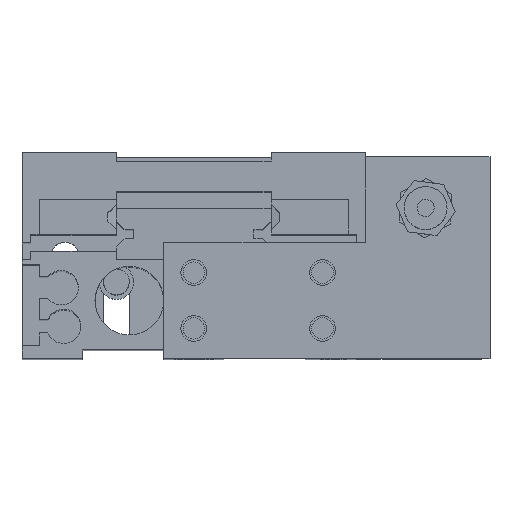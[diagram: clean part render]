
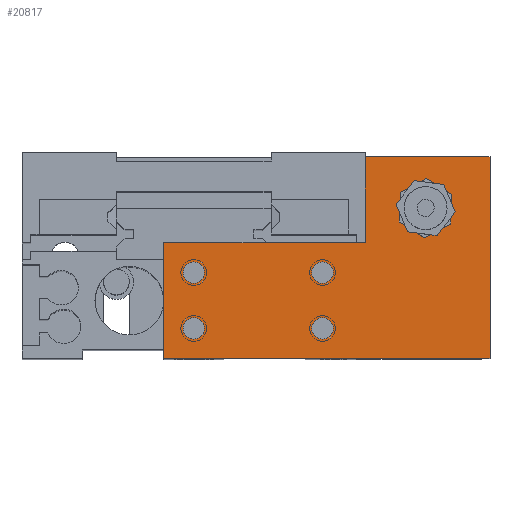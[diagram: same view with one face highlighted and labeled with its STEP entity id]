
A CAD part, top view. The second image highlights one B-rep face of the part: STEP entity #20817.
In plain terms, the highlighted planar face has unit normal (0, 0, 1).
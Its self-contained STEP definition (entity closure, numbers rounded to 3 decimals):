
#8771 = CARTESIAN_POINT ( 'NONE',  ( 4.75, 10., 6. ) ) ;
#8881 = CARTESIAN_POINT ( 'NONE',  ( 2.25, 10., 6. ) ) ;
#8891 = CIRCLE ( 'NONE', #8929, 1.25 ) ;
#8926 = DIRECTION ( 'NONE',  ( 1., 0., 0. ) ) ;
#8927 = DIRECTION ( 'NONE',  ( 0., 0., 1. ) ) ;
#8928 = CARTESIAN_POINT ( 'NONE',  ( 18.5, 3.5, 6. ) ) ;
#8929 = AXIS2_PLACEMENT_3D ( 'NONE', #8928, #8927, #8926 ) ;
#8938 = CARTESIAN_POINT ( 'NONE',  ( 28., 17.5, 6. ) ) ;
#8971 = CARTESIAN_POINT ( 'NONE',  ( 4.75, 3.5, 6. ) ) ;
#8980 = CIRCLE ( 'NONE', #9063, 1.25 ) ;
#8983 = DIRECTION ( 'NONE',  ( 1., 0., 0. ) ) ;
#8984 = DIRECTION ( 'NONE',  ( 0., 0., 1. ) ) ;
#8985 = CARTESIAN_POINT ( 'NONE',  ( 3.5, 3.5, 6. ) ) ;
#8986 = AXIS2_PLACEMENT_3D ( 'NONE', #8985, #8984, #8983 ) ;
#8996 = CARTESIAN_POINT ( 'NONE',  ( 19.75, 3.5, 6. ) ) ;
#9003 = CIRCLE ( 'NONE', #8986, 1.25 ) ;
#9011 = CARTESIAN_POINT ( 'NONE',  ( 33., 17.5, 6. ) ) ;
#9031 = CARTESIAN_POINT ( 'NONE',  ( 17.25, 3.5, 6. ) ) ;
#9038 = CARTESIAN_POINT ( 'NONE',  ( 0., 0., 6. ) ) ;
#9039 = CIRCLE ( 'NONE', #9099, 2.5 ) ;
#9058 = DIRECTION ( 'NONE',  ( 1., 0., 0. ) ) ;
#9059 = DIRECTION ( 'NONE',  ( 0., 0., 1. ) ) ;
#9063 = AXIS2_PLACEMENT_3D ( 'NONE', #9069, #9059, #9058 ) ;
#9069 = CARTESIAN_POINT ( 'NONE',  ( 18.5, 10., 6. ) ) ;
#9096 = DIRECTION ( 'NONE',  ( 1., 0., 0. ) ) ;
#9097 = DIRECTION ( 'NONE',  ( 0., 0., 1. ) ) ;
#9098 = CARTESIAN_POINT ( 'NONE',  ( 30.5, 17.5, 6. ) ) ;
#9099 = AXIS2_PLACEMENT_3D ( 'NONE', #9098, #9097, #9096 ) ;
#9118 = DIRECTION ( 'NONE',  ( 0., -1., 0. ) ) ;
#9119 = VECTOR ( 'NONE', #9118, 1000. ) ;
#9120 = CARTESIAN_POINT ( 'NONE',  ( 0., 0., 6. ) ) ;
#9126 = LINE ( 'NONE', #9120, #9119 ) ;
#9152 = DIRECTION ( 'NONE',  ( 0., 1., 0. ) ) ;
#9153 = VECTOR ( 'NONE', #9152, 1000. ) ;
#9154 = CARTESIAN_POINT ( 'NONE',  ( 38., 0., 6. ) ) ;
#9155 = LINE ( 'NONE', #9154, #9153 ) ;
#9165 = CARTESIAN_POINT ( 'NONE',  ( 38., 0., 6. ) ) ;
#9172 = CARTESIAN_POINT ( 'NONE',  ( 23.5, 23.5, 6. ) ) ;
#9187 = CARTESIAN_POINT ( 'NONE',  ( 0., 13.5, 6. ) ) ;
#9225 = CARTESIAN_POINT ( 'NONE',  ( 23.5, 13.5, 6. ) ) ;
#9238 = DIRECTION ( 'NONE',  ( 0., 0., 1. ) ) ;
#9250 = CARTESIAN_POINT ( 'NONE',  ( 38., 23.5, 6. ) ) ;
#9256 = DIRECTION ( 'NONE',  ( -1., 0., 0. ) ) ;
#9257 = VECTOR ( 'NONE', #9256, 1000. ) ;
#9258 = CARTESIAN_POINT ( 'NONE',  ( 38., 23.5, 6. ) ) ;
#9259 = LINE ( 'NONE', #9258, #9257 ) ;
#9269 = DIRECTION ( 'NONE',  ( -1., 0., 0. ) ) ;
#9270 = VECTOR ( 'NONE', #9269, 1000. ) ;
#9271 = CARTESIAN_POINT ( 'NONE',  ( 0., 13.5, 6. ) ) ;
#9272 = LINE ( 'NONE', #9271, #9270 ) ;
#9297 = PLANE ( 'NONE',  #9360 ) ;
#9303 = DIRECTION ( 'NONE',  ( 1., 0., 0. ) ) ;
#9304 = AXIS2_PLACEMENT_3D ( 'NONE', #9305, #9238, #9303 ) ;
#9305 = CARTESIAN_POINT ( 'NONE',  ( 18.5, 10., 6. ) ) ;
#9306 = FACE_OUTER_BOUND ( 'NONE', #21062, .T. ) ;
#9309 = CIRCLE ( 'NONE', #9304, 1.25 ) ;
#9310 = CARTESIAN_POINT ( 'NONE',  ( 0., 13.5, 6. ) ) ;
#9311 = CARTESIAN_POINT ( 'NONE',  ( 23.5, 23.5, 6. ) ) ;
#9312 = LINE ( 'NONE', #9311, #9353 ) ;
#9328 = CIRCLE ( 'NONE', #9332, 1.25 ) ;
#9329 = DIRECTION ( 'NONE',  ( -1., 0., 0. ) ) ;
#9330 = DIRECTION ( 'NONE',  ( 0., 0., -1. ) ) ;
#9332 = AXIS2_PLACEMENT_3D ( 'NONE', #9333, #9377, #9376 ) ;
#9333 = CARTESIAN_POINT ( 'NONE',  ( 3.5, 3.5, 6. ) ) ;
#9335 = FACE_BOUND ( 'NONE', #20024, .T. ) ;
#9339 = FACE_BOUND ( 'NONE', #19853, .T. ) ;
#9340 = FACE_BOUND ( 'NONE', #20636, .T. ) ;
#9341 = DIRECTION ( 'NONE',  ( 1., 0., 0. ) ) ;
#9342 = DIRECTION ( 'NONE',  ( 0., 0., 1. ) ) ;
#9343 = AXIS2_PLACEMENT_3D ( 'NONE', #9350, #9342, #9341 ) ;
#9344 = FACE_BOUND ( 'NONE', #20848, .T. ) ;
#9345 = FACE_BOUND ( 'NONE', #20580, .T. ) ;
#9350 = CARTESIAN_POINT ( 'NONE',  ( 3.5, 10., 6. ) ) ;
#9352 = DIRECTION ( 'NONE',  ( 0., -1., 0. ) ) ;
#9353 = VECTOR ( 'NONE', #9352, 1000. ) ;
#9359 = CIRCLE ( 'NONE', #9343, 1.25 ) ;
#9360 = AXIS2_PLACEMENT_3D ( 'NONE', #9310, #9330, #9329 ) ;
#9361 = DIRECTION ( 'NONE',  ( 1., 0., 0. ) ) ;
#9362 = DIRECTION ( 'NONE',  ( 0., 0., 1. ) ) ;
#9363 = CARTESIAN_POINT ( 'NONE',  ( 30.5, 17.5, 6. ) ) ;
#9364 = AXIS2_PLACEMENT_3D ( 'NONE', #9363, #9422, #9421 ) ;
#9371 = CIRCLE ( 'NONE', #9364, 2.5 ) ;
#9374 = CIRCLE ( 'NONE', #9383, 1.25 ) ;
#9375 = CARTESIAN_POINT ( 'NONE',  ( 18.5, 3.5, 6. ) ) ;
#9376 = DIRECTION ( 'NONE',  ( 1., 0., 0. ) ) ;
#9377 = DIRECTION ( 'NONE',  ( 0., 0., 1. ) ) ;
#9383 = AXIS2_PLACEMENT_3D ( 'NONE', #9375, #9362, #9361 ) ;
#9421 = DIRECTION ( 'NONE',  ( 1., 0., 0. ) ) ;
#9422 = DIRECTION ( 'NONE',  ( 0., 0., 1. ) ) ;
#10534 = DIRECTION ( 'NONE',  ( 1., 0., 0. ) ) ;
#10535 = VECTOR ( 'NONE', #10534, 1000. ) ;
#10536 = CARTESIAN_POINT ( 'NONE',  ( 0., 0., 6. ) ) ;
#10537 = LINE ( 'NONE', #10536, #10535 ) ;
#10552 = CARTESIAN_POINT ( 'NONE',  ( 2.25, 3.5, 6. ) ) ;
#10560 = DIRECTION ( 'NONE',  ( 0., 0., 1. ) ) ;
#10600 = DIRECTION ( 'NONE',  ( 1., 0., 0. ) ) ;
#10601 = AXIS2_PLACEMENT_3D ( 'NONE', #10610, #10560, #10600 ) ;
#10605 = CARTESIAN_POINT ( 'NONE',  ( 19.75, 10., 6. ) ) ;
#10606 = CIRCLE ( 'NONE', #10601, 1.25 ) ;
#10610 = CARTESIAN_POINT ( 'NONE',  ( 3.5, 10., 6. ) ) ;
#10613 = CARTESIAN_POINT ( 'NONE',  ( 17.25, 10., 6. ) ) ;
#18368 = VERTEX_POINT ( 'NONE', #8771 ) ;
#18400 = VERTEX_POINT ( 'NONE', #8881 ) ;
#18626 = VERTEX_POINT ( 'NONE', #8938 ) ;
#18657 = EDGE_CURVE ( 'NONE', #18848, #18741, #8891, .T. ) ;
#18718 = VERTEX_POINT ( 'NONE', #8971 ) ;
#18741 = VERTEX_POINT ( 'NONE', #8996 ) ;
#18754 = EDGE_CURVE ( 'NONE', #22705, #18718, #9003, .T. ) ;
#18829 = VERTEX_POINT ( 'NONE', #9011 ) ;
#18848 = VERTEX_POINT ( 'NONE', #9031 ) ;
#18903 = EDGE_CURVE ( 'NONE', #22717, #22723, #8980, .T. ) ;
#18997 = VERTEX_POINT ( 'NONE', #9038 ) ;
#19029 = EDGE_CURVE ( 'NONE', #18626, #18829, #9039, .T. ) ;
#19158 = EDGE_CURVE ( 'NONE', #19559, #18997, #9126, .T. ) ;
#19345 = EDGE_CURVE ( 'NONE', #19385, #19981, #9155, .T. ) ;
#19385 = VERTEX_POINT ( 'NONE', #9165 ) ;
#19559 = VERTEX_POINT ( 'NONE', #9187 ) ;
#19608 = VERTEX_POINT ( 'NONE', #9172 ) ;
#19814 = VERTEX_POINT ( 'NONE', #9225 ) ;
#19853 = EDGE_LOOP ( 'NONE', ( #20632, #20707 ) ) ;
#19967 = EDGE_CURVE ( 'NONE', #19981, #19608, #9259, .T. ) ;
#19981 = VERTEX_POINT ( 'NONE', #9250 ) ;
#20024 = EDGE_LOOP ( 'NONE', ( #20587, #21171 ) ) ;
#20353 = EDGE_CURVE ( 'NONE', #19814, #19559, #9272, .T. ) ;
#20580 = EDGE_LOOP ( 'NONE', ( #20584, #20934 ) ) ;
#20584 = ORIENTED_EDGE ( 'NONE', *, *, #21011, .F. ) ;
#20587 = ORIENTED_EDGE ( 'NONE', *, *, #20640, .F. ) ;
#20632 = ORIENTED_EDGE ( 'NONE', *, *, #20775, .F. ) ;
#20633 = ORIENTED_EDGE ( 'NONE', *, *, #18657, .F. ) ;
#20636 = EDGE_LOOP ( 'NONE', ( #20944, #20633 ) ) ;
#20640 = EDGE_CURVE ( 'NONE', #22723, #22717, #9309, .T. ) ;
#20707 = ORIENTED_EDGE ( 'NONE', *, *, #22715, .F. ) ;
#20708 = EDGE_CURVE ( 'NONE', #19608, #19814, #9312, .T. ) ;
#20775 = EDGE_CURVE ( 'NONE', #18368, #18400, #9359, .T. ) ;
#20817 = ADVANCED_FACE ( 'NONE', ( #9339, #9335, #9345, #9340, #9344, #9306 ), #9297, .F. ) ;
#20848 = EDGE_LOOP ( 'NONE', ( #20908, #21184 ) ) ;
#20908 = ORIENTED_EDGE ( 'NONE', *, *, #21057, .F. ) ;
#20911 = ORIENTED_EDGE ( 'NONE', *, *, #20353, .T. ) ;
#20934 = ORIENTED_EDGE ( 'NONE', *, *, #18754, .F. ) ;
#20944 = ORIENTED_EDGE ( 'NONE', *, *, #21043, .F. ) ;
#21011 = EDGE_CURVE ( 'NONE', #18718, #22705, #9328, .T. ) ;
#21043 = EDGE_CURVE ( 'NONE', #18741, #18848, #9374, .T. ) ;
#21057 = EDGE_CURVE ( 'NONE', #18829, #18626, #9371, .T. ) ;
#21062 = EDGE_LOOP ( 'NONE', ( #21088, #21237, #21193, #21462, #21177, #20911 ) ) ;
#21088 = ORIENTED_EDGE ( 'NONE', *, *, #19158, .T. ) ;
#21171 = ORIENTED_EDGE ( 'NONE', *, *, #18903, .F. ) ;
#21177 = ORIENTED_EDGE ( 'NONE', *, *, #20708, .T. ) ;
#21184 = ORIENTED_EDGE ( 'NONE', *, *, #19029, .F. ) ;
#21193 = ORIENTED_EDGE ( 'NONE', *, *, #19345, .T. ) ;
#21237 = ORIENTED_EDGE ( 'NONE', *, *, #22672, .T. ) ;
#21462 = ORIENTED_EDGE ( 'NONE', *, *, #19967, .T. ) ;
#22672 = EDGE_CURVE ( 'NONE', #18997, #19385, #10537, .T. ) ;
#22705 = VERTEX_POINT ( 'NONE', #10552 ) ;
#22715 = EDGE_CURVE ( 'NONE', #18400, #18368, #10606, .T. ) ;
#22717 = VERTEX_POINT ( 'NONE', #10613 ) ;
#22723 = VERTEX_POINT ( 'NONE', #10605 ) ;
